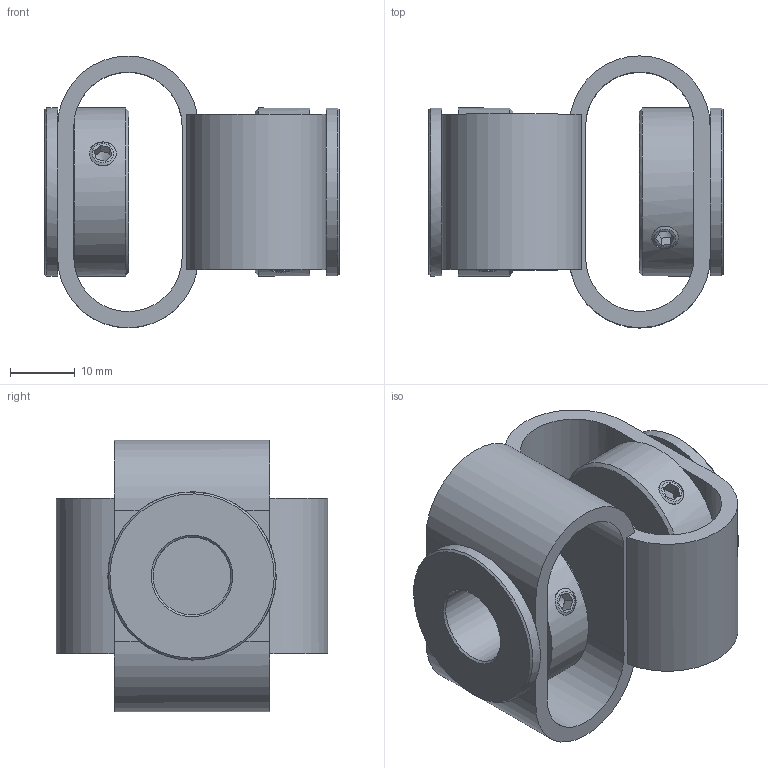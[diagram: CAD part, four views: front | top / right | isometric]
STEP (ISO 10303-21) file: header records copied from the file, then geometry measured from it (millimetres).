
FILE_DESCRIPTION(/* description */ (''),/* implementation_level */ '2;1');
FILE_NAME(/* name */ 'E:\ABP_bauteile\Doppelschlaufenkupplung\DKPS_4848\Doppelschlaufenkupplung_DKPS_4848_95_12.stp',/* time_stamp */ '2015-03-13T14:11:13+01:00',/* author */ ('Rob'),/* organization */ (''),/* preprocessor_version */ 'ST-DEVELOPER v15.6',/* originating_system */ 'Autodesk Inventor 2015',/* authorisation */ '');
FILE_SCHEMA (('CONFIG_CONTROL_DESIGN'));
Length unit declared in the file: millimetre
Products named in the file (1): Bauteil32
Bounding box: 45.55 x 42.03 x 42.03 mm (x, y, z)
Volume: 19345.7 mm3; surface area: 13416.6 mm2
Topology: 1 solids, 2 shells, 134 faces, 311 edges, 188 vertices
Faces by surface type: plane 83, cylinder 27, cone 24
Full cylindrical faces by diameter (mm): 4.134 x8, 9.52 x1, 12 x1, 16.5 x2, 18 x3, 26 x4
Entity records: 3580 total; most frequent: CARTESIAN_POINT 849, DIRECTION 588, ORIENTED_EDGE 470, EDGE_CURVE 235, AXIS2_PLACEMENT_3D 234, EDGE_LOOP 198, VERTEX_POINT 155, FACE_OUTER_BOUND 134
